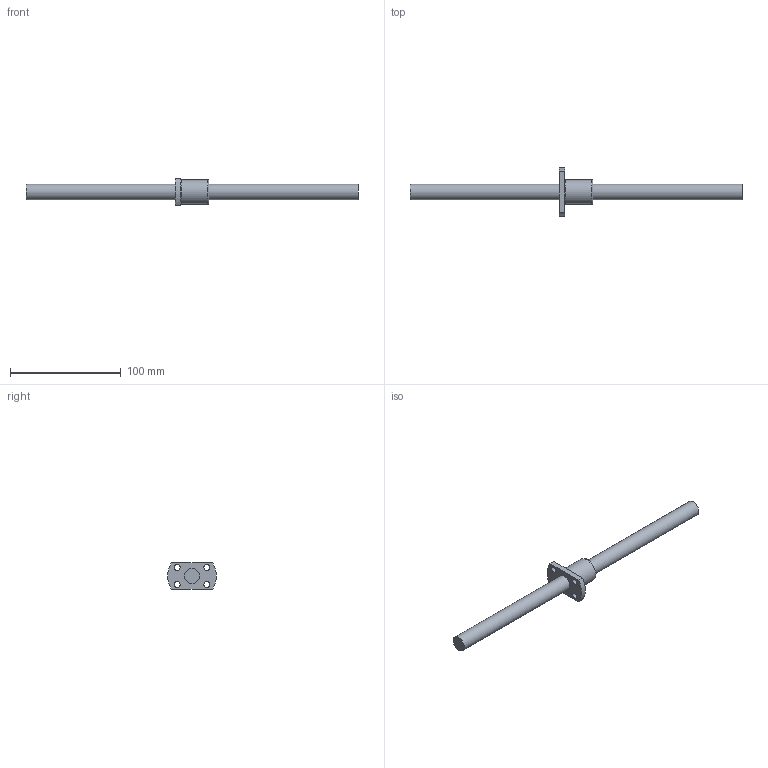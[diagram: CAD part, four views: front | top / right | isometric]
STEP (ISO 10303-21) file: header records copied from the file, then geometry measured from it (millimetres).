
FILE_DESCRIPTION((''),'2;1');
FILE_NAME('D:\製品 (図面)\カタログ用3D\ネジ関連\STEP形式\TMK\TMK14.stp','2010-06-02T15:22:26',('Tsuchiya'),(''),'Autodesk Inventor 10','Autodesk Inventor 10','');
FILE_SCHEMA(('AUTOMOTIVE_DESIGN { 1 0 10303 214 1 1 1 1 }'));
Length unit declared in the file: millimetre
Products named in the file (3): TMK14; TMK141; TMK142
Assembly tree (2 placements, depth 2):
  TMK14
    TMK141
    TMK142
Bounding box: 300 x 43.85 x 24 mm (x, y, z)
Volume: 55602.8 mm3; surface area: 18977.8 mm2
Topology: 2 solids, 2 shells, 18 faces, 41 edges, 28 vertices
Faces by surface type: plane 7, cylinder 5, bspline 5, torus 1
Full cylindrical faces by diameter (mm): 14 x2, 22 x1
Entity records: 628 total; most frequent: CARTESIAN_POINT 187, DIRECTION 84, ORIENTED_EDGE 56, AXIS2_PLACEMENT_3D 38, EDGE_LOOP 38, EDGE_CURVE 28, VERTEX_POINT 24, CIRCLE 20
